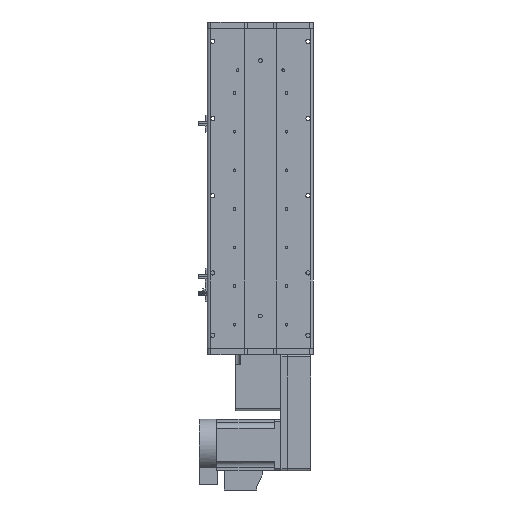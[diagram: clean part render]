
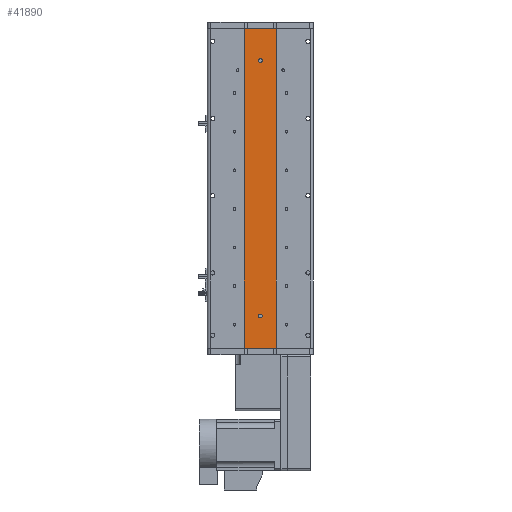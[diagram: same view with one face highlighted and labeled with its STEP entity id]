
A CAD part, front view. The second image highlights one B-rep face of the part: STEP entity #41890.
In plain terms, the highlighted planar face has unit normal (0, -1, 0).
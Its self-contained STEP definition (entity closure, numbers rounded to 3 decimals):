
#879 = DIRECTION ( 'NONE',  ( 0., 0., 1. ) ) ;
#916 = LINE ( 'NONE', #11106, #39003 ) ;
#1653 = ORIENTED_EDGE ( 'NONE', *, *, #57755, .T. ) ;
#5748 = CARTESIAN_POINT ( 'NONE',  ( -25., 1., -248.5 ) ) ;
#6833 = EDGE_CURVE ( 'NONE', #19789, #50774, #59631, .T. ) ;
#6946 = VERTEX_POINT ( 'NONE', #44398 ) ;
#7082 = DIRECTION ( 'NONE',  ( 0., 1., 0. ) ) ;
#7277 = CARTESIAN_POINT ( 'NONE',  ( 25., 1., 248.5 ) ) ;
#9452 = DIRECTION ( 'NONE',  ( 0., 1., 0. ) ) ;
#10829 = LINE ( 'NONE', #51598, #23001 ) ;
#10876 = DIRECTION ( 'NONE',  ( 0., 0., -1. ) ) ;
#11106 = CARTESIAN_POINT ( 'NONE',  ( -25., 1., 248.5 ) ) ;
#12066 = CARTESIAN_POINT ( 'NONE',  ( 0., 1., 195.5 ) ) ;
#12358 = FACE_BOUND ( 'NONE', #54143, .T. ) ;
#12441 = ORIENTED_EDGE ( 'NONE', *, *, #21372, .T. ) ;
#12784 = EDGE_CURVE ( 'NONE', #62580, #60037, #46646, .T. ) ;
#13225 = CIRCLE ( 'NONE', #32349, 3. ) ;
#13527 = EDGE_CURVE ( 'NONE', #27057, #55241, #13225, .T. ) ;
#14152 = ORIENTED_EDGE ( 'NONE', *, *, #6833, .T. ) ;
#15563 = DIRECTION ( 'NONE',  ( 1., 0., 0. ) ) ;
#16988 = CARTESIAN_POINT ( 'NONE',  ( 0., 1., -195.5 ) ) ;
#17456 = CARTESIAN_POINT ( 'NONE',  ( 0., 1., 198.5 ) ) ;
#18133 = LINE ( 'NONE', #64507, #30295 ) ;
#19789 = VERTEX_POINT ( 'NONE', #12066 ) ;
#21372 = EDGE_CURVE ( 'NONE', #6946, #34475, #916, .T. ) ;
#22696 = DIRECTION ( 'NONE',  ( 0., 0., 1. ) ) ;
#23001 = VECTOR ( 'NONE', #15563, 1000. ) ;
#24354 = ORIENTED_EDGE ( 'NONE', *, *, #41639, .T. ) ;
#25292 = CARTESIAN_POINT ( 'NONE',  ( 25., 1., -248.5 ) ) ;
#26212 = FACE_OUTER_BOUND ( 'NONE', #65758, .T. ) ;
#26891 = ORIENTED_EDGE ( 'NONE', *, *, #12784, .F. ) ;
#27057 = VERTEX_POINT ( 'NONE', #63885 ) ;
#28497 = CARTESIAN_POINT ( 'NONE',  ( 0., 1., 201.5 ) ) ;
#30204 = CARTESIAN_POINT ( 'NONE',  ( 25., 1., 248.5 ) ) ;
#30295 = VECTOR ( 'NONE', #33509, 1000. ) ;
#31203 = VECTOR ( 'NONE', #38326, 1000. ) ;
#31325 = AXIS2_PLACEMENT_3D ( 'NONE', #38151, #7082, #43335 ) ;
#31766 = EDGE_CURVE ( 'NONE', #55241, #27057, #40448, .T. ) ;
#31883 = DIRECTION ( 'NONE',  ( 0., 1., 0. ) ) ;
#32349 = AXIS2_PLACEMENT_3D ( 'NONE', #40506, #9452, #45710 ) ;
#33509 = DIRECTION ( 'NONE',  ( 1., 0., 0. ) ) ;
#34212 = CIRCLE ( 'NONE', #31325, 3. ) ;
#34475 = VERTEX_POINT ( 'NONE', #5748 ) ;
#34844 = ORIENTED_EDGE ( 'NONE', *, *, #65655, .F. ) ;
#35342 = PLANE ( 'NONE',  #61558 ) ;
#35579 = DIRECTION ( 'NONE',  ( 0., 0., 1. ) ) ;
#38151 = CARTESIAN_POINT ( 'NONE',  ( 0., 1., 198.5 ) ) ;
#38326 = DIRECTION ( 'NONE',  ( 0., 0., -1. ) ) ;
#39003 = VECTOR ( 'NONE', #10876, 1000. ) ;
#40448 = CIRCLE ( 'NONE', #45747, 3. ) ;
#40506 = CARTESIAN_POINT ( 'NONE',  ( 0., 1., -198.5 ) ) ;
#40573 = CARTESIAN_POINT ( 'NONE',  ( 25., 1., 248.5 ) ) ;
#40936 = EDGE_LOOP ( 'NONE', ( #14152, #1653 ) ) ;
#41639 = EDGE_CURVE ( 'NONE', #34475, #60037, #18133, .T. ) ;
#41890 = ADVANCED_FACE ( 'NONE', ( #12358, #52140, #26212 ), #35342, .F. ) ;
#43335 = DIRECTION ( 'NONE',  ( 0., 0., 1. ) ) ;
#44398 = CARTESIAN_POINT ( 'NONE',  ( -25., 1., 248.5 ) ) ;
#45710 = DIRECTION ( 'NONE',  ( 0., 0., 1. ) ) ;
#45747 = AXIS2_PLACEMENT_3D ( 'NONE', #62886, #31883, #879 ) ;
#46646 = LINE ( 'NONE', #7277, #31203 ) ;
#50774 = VERTEX_POINT ( 'NONE', #28497 ) ;
#51384 = ORIENTED_EDGE ( 'NONE', *, *, #31766, .T. ) ;
#51598 = CARTESIAN_POINT ( 'NONE',  ( 25., 1., 248.5 ) ) ;
#52140 = FACE_BOUND ( 'NONE', #40936, .T. ) ;
#53666 = DIRECTION ( 'NONE',  ( 0., 1., 0. ) ) ;
#54143 = EDGE_LOOP ( 'NONE', ( #63020, #51384 ) ) ;
#55241 = VERTEX_POINT ( 'NONE', #16988 ) ;
#57755 = EDGE_CURVE ( 'NONE', #50774, #19789, #34212, .T. ) ;
#59631 = CIRCLE ( 'NONE', #66630, 3. ) ;
#60037 = VERTEX_POINT ( 'NONE', #25292 ) ;
#61558 = AXIS2_PLACEMENT_3D ( 'NONE', #40573, #66575, #35579 ) ;
#62580 = VERTEX_POINT ( 'NONE', #30204 ) ;
#62886 = CARTESIAN_POINT ( 'NONE',  ( 0., 1., -198.5 ) ) ;
#63020 = ORIENTED_EDGE ( 'NONE', *, *, #13527, .T. ) ;
#63885 = CARTESIAN_POINT ( 'NONE',  ( 0., 1., -201.5 ) ) ;
#64507 = CARTESIAN_POINT ( 'NONE',  ( 25., 1., -248.5 ) ) ;
#65655 = EDGE_CURVE ( 'NONE', #6946, #62580, #10829, .T. ) ;
#65758 = EDGE_LOOP ( 'NONE', ( #24354, #26891, #34844, #12441 ) ) ;
#66575 = DIRECTION ( 'NONE',  ( 0., 1., 0. ) ) ;
#66630 = AXIS2_PLACEMENT_3D ( 'NONE', #17456, #53666, #22696 ) ;
